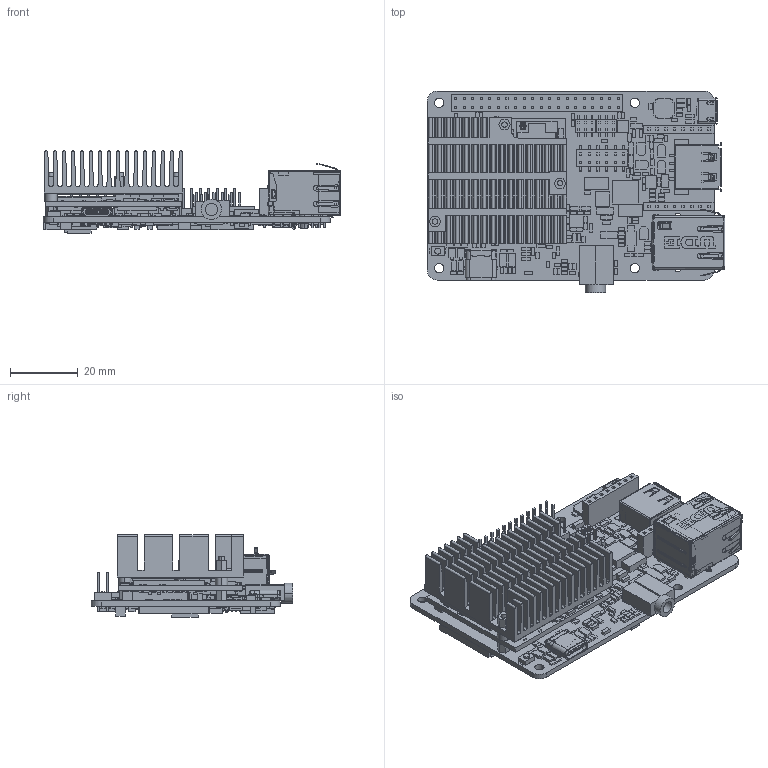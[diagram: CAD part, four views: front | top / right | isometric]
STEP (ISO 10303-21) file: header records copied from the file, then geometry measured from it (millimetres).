
FILE_DESCRIPTION((''),'2;1');
FILE_NAME('PICO-PI-IMX6Q-HS12_ASM','2020-12-31T',('gary'),(''),'CREO PARAMETRIC BY PTC INC, 2014350','CREO PARAMETRIC BY PTC INC, 2014350','');
FILE_SCHEMA(('AUTOMOTIVE_DESIGN { 1 0 10303 214 1 1 1 1 }'));
Products named in the file (114): TN132_PCB; UT11113-11604-7H-327-0708-X2__1; UT11113-11604-7H-327-0708-X2__2; UT11113-11604-7H-327-0708-X2_1_ASM; AUDIO_PJD-035-47B; LCD_FPC_CONN_50PIN; USB_TOUCH_1_1_2; PINHERADER_2X20_P254; FEMALE_HEADER_1X8; SW_MPTCFGP2-V; CONN_FP124-404M4; PIN_HOLDER_2X6_P254_SMT; PIN_HOLDER_2X3_P02_SMT; DHNF_04F_V_B; USB_KUAS19-4XX2X0-19; MIRCO_USB_KMR1; CONN_DF40C-70DP-04V; RT7-M110_RT7-M1100A1G-10PI-8799; RT7-M110_RT7-M1100A1G-10PI-8804; RM1-C110-SW_____-1_RM1-C11-8805; RM1-C110-SW_____-1_RM1-C11-8806; RM1-C110-SW_____-1_RM1-C11-8807; RT7-M110_RT7-M1100A1G-10PI-8808; RT7-M110_RT7-M1100A1G-10PI-8809; RT7-P110-J3_RT7-P110GA0G-1-SOLI; RT7-M110_RT7-M1100A1G-10PI-8811; RT7_LED_1-1-SOLID2; RT7_LED_1-1-SOLID1; RT7-M110_RT7-M1100A1G-10PI-8814; RT7-S110-W_11111-1-SOLID1; RT7-M110_RT7-M1100A1G-10PI-8816; RT7-M110_RT7-M1100A1G-10PI-8817; RM1-C110-SW_____-1_RM1-C11-8818; RT7-P140_1-1-SOLID1; RT7-P130_RT7-P130000G-1-SOLID1; RM1-C110-SW_____-1_RM1-C11-8821; RT7-M110_RT7-M1100A1G-10PI-8822; RM1-C110-SW_____-1_RM1-C11-8823; RT7-M110_RT7-M1100A1G-10PI-8824; RM1-C110-SW_____-1_RM1-C11-8825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
Assembly tree (845 placements, depth 4):
  PICO-PI-IMX6Q-HS12_ASM
    TN132_ASM_ASM
      TN132_PCB
      UT11113-11604-7H-327-0708-X2_1_ASM
        UT11113-11604-7H-327-0708-X2__1
        UT11113-11604-7H-327-0708-X2__2
      AUDIO_PJD-035-47B
      LCD_FPC_CONN_50PIN
      USB_TOUCH_1_1_2
      PINHERADER_2X20_P254
      FEMALE_HEADER_1X8  x2
      SW_MPTCFGP2-V
      CONN_FP124-404M4
      PIN_HOLDER_2X6_P254_SMT
      PIN_HOLDER_2X3_P02_SMT  x2
      DHNF_04F_V_B
      USB_KUAS19-4XX2X0-19
      MIRCO_USB_KMR1
      CONN_DF40C-70DP-04V  x3
      RT7-174A-XXXX-10PIN_1_ASM
        RT7-M110_RT7-M1100A1G-10PI-8799
        RT7-M110_RT7-M1100A1G-10PI-8804
        RM1-C110-SW_____-1_RM1-C11-8805
        RM1-C110-SW_____-1_RM1-C11-8806
        RM1-C110-SW_____-1_RM1-C11-8807
        RT7-M110_RT7-M1100A1G-10PI-8808
        RT7-M110_RT7-M1100A1G-10PI-8809
        RT7-P110-J3_RT7-P110GA0G-1-SOLI
        RT7-M110_RT7-M1100A1G-10PI-8811
        RT7_LED_1-1-SOLID2
        RT7_LED_1-1-SOLID1
        RT7-M110_RT7-M1100A1G-10PI-8814
        RT7-S110-W_11111-1-SOLID1
        RT7-M110_RT7-M1100A1G-10PI-8816
        RT7-M110_RT7-M1100A1G-10PI-8817
        RM1-C110-SW_____-1_RM1-C11-8818
        RT7-P140_1-1-SOLID1
        RT7-P130_RT7-P130000G-1-SOLID1
        RM1-C110-SW_____-1_RM1-C11-8821
        RT7-M110_RT7-M1100A1G-10PI-8822
        RM1-C110-SW_____-1_RM1-C11-8823
        RT7-M110_RT7-M1100A1G-10PI-8824
        RM1-C110-SW_____-1_RM1-C11-8825
        RT7-M110_RT7-M1100A1G-10PI-8826
        RT7-M110_RT7-M1100A1G-10PI-8827
        RM1-C110-SW_____-1_RM1-C11-8828
      TN132_B1_1230_ASM
        MYSOT23_BAT54C_A
        QFN32_D5_5X5_GND
        YZC_R-XBGA-N6_C2_11X16
        QFN32_D5_5X5_G122_9P
        SOT23_IOG
        SOT23_GDS  x2
        1SS355_AC  x2
        SOT23_BCE  x4
        BAT54S_132  x4
        TSSOP8_D65
        SM0805R  x4
        L4242H20_FDSD0420
        SMB214AA_AC  x2
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Bounding box: 88.09 x 59.8 x 24.4 mm (x, y, z)
Volume: 27461.9 mm3; surface area: 54929.6 mm2
Topology: 839 solids, 839 shells, 12072 faces, 29997 edges, 19848 vertices
Faces by surface type: plane 10579, cylinder 1346, bspline 76, torus 34, cone 25, sphere 10, extrusion 2
Entity records: 265394 total; most frequent: CARTESIAN_POINT 38738, DIRECTION 33271, ORIENTED_EDGE 31720, EDGE_CURVE 15860, PRESENTATION_STYLE_ASSIGNMENT 15177, STYLED_ITEM 15177, CURVE_STYLE 15116, VECTOR 12829
